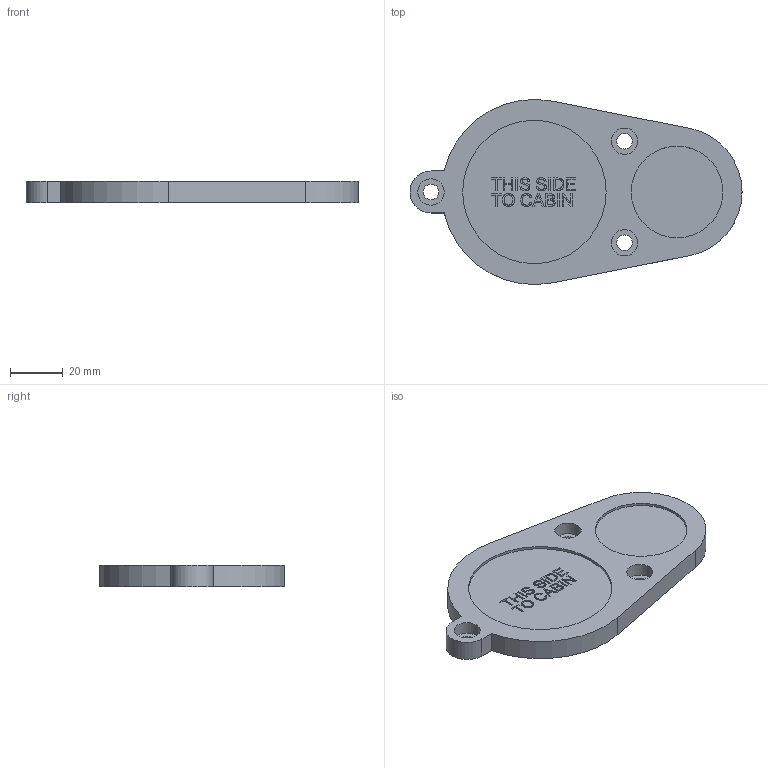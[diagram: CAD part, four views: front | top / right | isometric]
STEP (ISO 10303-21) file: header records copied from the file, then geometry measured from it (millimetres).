
FILE_DESCRIPTION(/* description */ ('Alibre Inc.'),/* implementation_level */ '2;1');
FILE_NAME(/* name */ 'export0',/* time_stamp */ '2017-07-18T23:08:33-04:00',/* author */ (''),/* organization */ (''),/* preprocessor_version */ 'ST-DEVELOPER v14',/* originating_system */ 'Alibre',/* authorisation */ '');
FILE_SCHEMA (('CONFIG_CONTROL_DESIGN'));
Length unit declared in the file: centimetre
Products named in the file (1): ID_1
Bounding box: 126.4 x 70.48 x 8 mm (x, y, z)
Volume: 46372.9 mm3; surface area: 16430 mm2
Topology: 1 solids, 1 shells, 237 faces, 630 edges, 420 vertices
Faces by surface type: plane 125, bspline 100, cylinder 12
Full cylindrical faces by diameter (mm): 6 x3, 10 x3, 34.925 x1, 54.61 x1
Entity records: 7340 total; most frequent: CARTESIAN_POINT 2174, ORIENTED_EDGE 1244, EDGE_CURVE 622, DIRECTION 590, VERTEX_POINT 420, VECTOR 398, LINE 398, EDGE_LOOP 276
